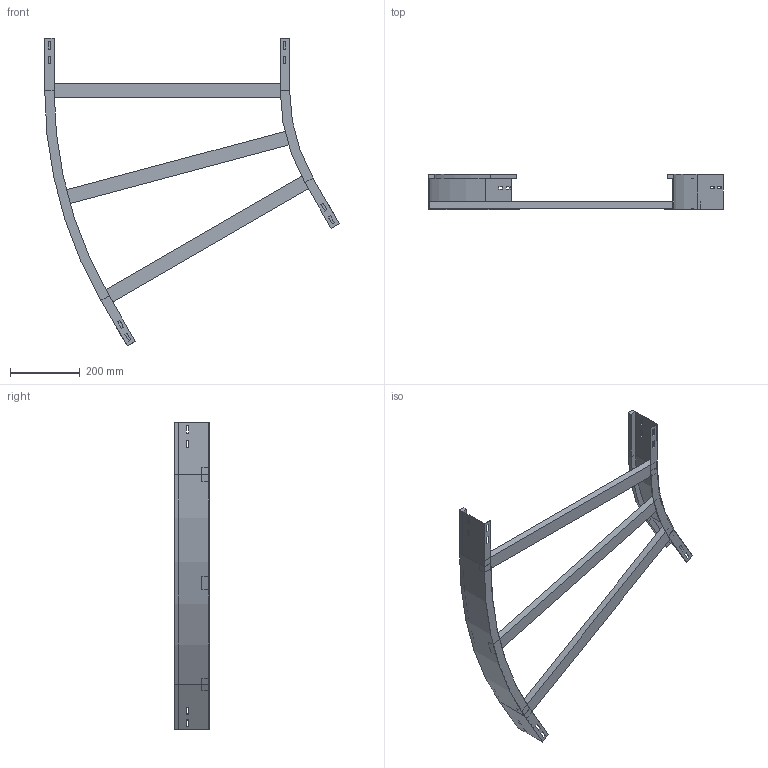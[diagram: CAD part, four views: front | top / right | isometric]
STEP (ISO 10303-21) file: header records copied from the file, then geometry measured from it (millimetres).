
FILE_DESCRIPTION (( 'STEP AP214' ), '1' );
FILE_NAME ('12B5D700.step', '2025-02-21T15:06:50', ( '' ), ( '' ), 'SwSTEP 2.0', 'SolidWorks 2023', '' );
FILE_SCHEMA (( 'AUTOMOTIVE_DESIGN' ));
Length unit declared in the file: millimetre
Products named in the file (4): 12B5D700; A2_LONGH.INTERNO 30°_H100_R500; A2_LONGH.ESTERNO 30°_H100_R500+700; TRAVERSINO_700
Assembly tree (5 placements, depth 2):
  12B5D700
    A2_LONGH.INTERNO 30°_H100_R500
    A2_LONGH.ESTERNO 30°_H100_R500+700
    TRAVERSINO_700  x3
Bounding box: 841.99 x 100 x 879.9 mm (x, y, z)
Volume: 2344984.1 mm3; surface area: 682377.7 mm2
Topology: 5 solids, 5 shells, 134 faces, 340 edges, 216 vertices
Faces by surface type: plane 126, cylinder 8
Entity records: 3821 total; most frequent: CARTESIAN_POINT 646, ORIENTED_EDGE 632, DIRECTION 592, EDGE_CURVE 316, LINE 300, VECTOR 300, VERTEX_POINT 200, EDGE_LOOP 154
